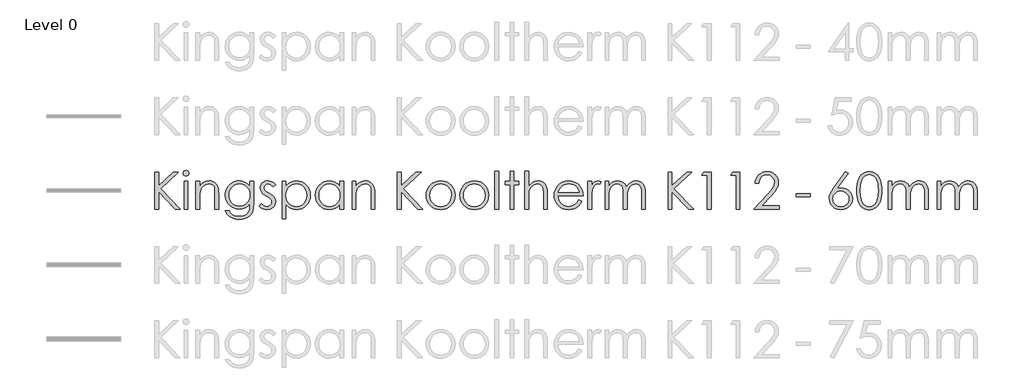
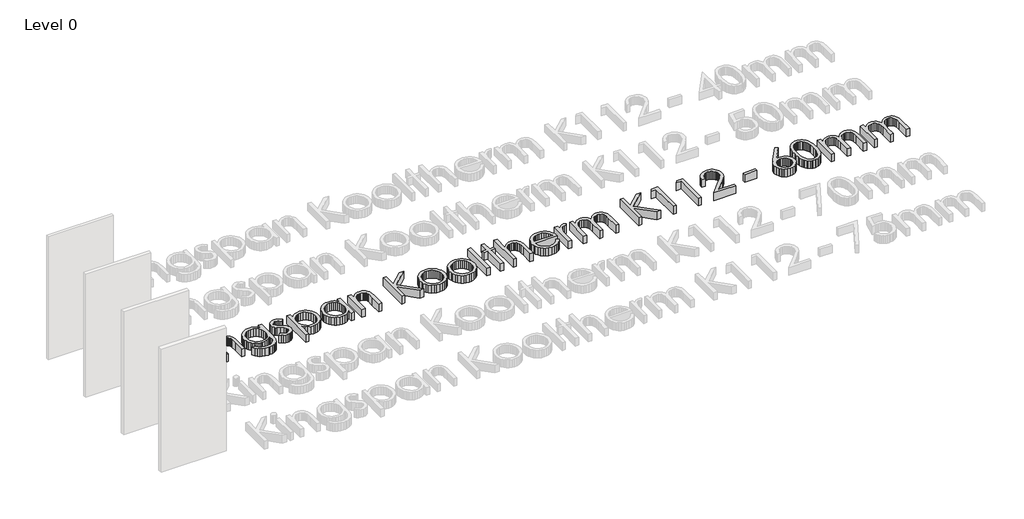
# One storey, part 11 of 14: 1 proxy.
"""IFC4 building model written with IfcOpenShell, lengths in millimetres."""

from ifc_helpers import new_model, si_unit, origin, origin_with_axes, place, context, project, spatial, polyline, outline, extrude, element, save

model = new_model("IFC4")

# Units and contexts
model_context = context("Model", 3, world=origin())
ifc_project = project(units=[si_unit("LENGTHUNIT", "METRE", prefix="MILLI")], contexts=[model_context])

# Site, building, storey
site = spatial("IfcSite", under=ifc_project)
building = spatial("IfcBuilding", under=site)
storey = spatial("IfcBuildingStorey", under=building, Name="Level 0", Elevation=0.0)

# Proxy
placement = place(None, origin())
element("IfcBuildingElementProxy", 1, Name="600mm KI_CenturyGothic", ObjectType="600mm KI_CenturyGothic", at=placement, inside=storey, context=model_context, shape_type="SweptSolid", body=[
    extrude(outline(polyline([(-3852.2663848, 2300.8965983), (-3792.944575, 2300.8965983), (-3792.944575, 2081.683973), (-3555.1938841, 2300.8965983), (-3471.6181051, 2300.8965983), (-3760.9664119, 2033.9484541), (-3441.9572002, 1707.6785001), (-3520.8984627, 1707.6785001), (-3792.944575, 1985.9039675), (-3792.944575, 1707.6785001), (-3852.2663848, 1707.6785001), (-3852.2663848, 2300.8965983)])), origin_with_axes(), (0.0, 0.0, 1.0), 150.0),
    extrude(outline(polyline([(-3348.1854852, 2330.5575033), (-3329.145347, 2327.2747208), (-3313.1176445, 2317.4263735), (-3302.226531, 2302.9821307), (-3298.5961598, 2285.911662), (-3302.226531, 2269.0729191), (-3313.1176445, 2254.7059183), (-3329.145347, 2244.857571), (-3348.1854852, 2241.5747885), (-3366.9938975, 2244.857571), (-3382.9443581, 2254.7059183), (-3393.8354717, 2269.0729191), (-3397.4658428, 2285.911662), (-3393.8354717, 2302.9821307), (-3382.9443581, 2317.4263735), (-3366.9938975, 2327.2747208), (-3348.1854852, 2330.5575033)])), origin_with_axes(), (0.0, 0.0, 1.0), 150.0),
    extrude(outline(polyline([(-3377.6919062, 2152.5920738), (-3318.3700964, 2152.5920738), (-3318.3700964, 1707.6785001), (-3377.6919062, 1707.6785001), (-3377.6919062, 2152.5920738)])), origin_with_axes(), (0.0, 0.0, 1.0), 150.0),
    extrude(outline(polyline([(-3189.8395084, 2152.5920738), (-3130.5176986, 2152.5920738), (-3130.5176986, 2073.4963274), (-3096.9946967, 2113.0055796), (-3060.0730495, 2140.696815), (-3019.7141359, 2157.0334853), (-2975.879335, 2162.4790421), (-2953.4357238, 2160.9004099), (-2932.2955704, 2156.1645135), (-2912.4588747, 2148.2713528), (-2893.9256368, 2137.2209277), (-2877.212412, 2123.4960006), (-2862.835756, 2107.5793333), (-2841.0921499, 2069.1707787), (-2833.6238199, 2044.7912914), (-2828.2892984, 2014.4448643), (-2824.0216812, 1935.8511905), (-2824.0216812, 1707.6785001), (-2883.343491, 1707.6785001), (-2883.343491, 1920.8662542), (-2883.343491, 2023.907002), (-2884.7290183, 2044.7043943), (-2889.8125035, 2062.7596977), (-2898.2849788, 2078.0729123), (-2910.1464442, 2090.644038), (-2924.7403432, 2100.4441091), (-2941.4101193, 2107.4441599), (-2980.977303, 2113.0442006), (-3005.3471351, 2110.8862539), (-3028.4038541, 2104.4124138), (-3050.1474602, 2093.6226803), (-3070.5779533, 2078.5170534), (-3088.6622225, 2060.2348518), (-3103.3671568, 2039.915394), (-3114.6927562, 2017.55868), (-3122.6390208, 1993.1647099), (-3128.5480292, 1946.0857475), (-3130.5176986, 1871.5858965), (-3130.5176986, 1707.6785001), (-3189.8395084, 1707.6785001), (-3189.8395084, 2152.5920738)])), origin_with_axes(), (0.0, 0.0, 1.0), 150.0),
    extrude(outline(polyline([(-2319.7862977, 2152.5920738), (-2260.4644879, 2152.5920738), (-2260.4644879, 1801.604699), (-2264.5196897, 1721.3503235), (-2269.588692, 1690.5500999), (-2276.6852953, 1665.9678526), (-2289.9371156, 1637.3545415), (-2307.2924139, 1612.2267729), (-2328.7511904, 1590.5845469), (-2354.3134448, 1572.4278634), (-2383.3226209, 1558.0656902), (-2415.122162, 1547.8069951), (-2449.7120682, 1541.651778), (-2487.0923395, 1539.6000389), (-2541.0458345, 1543.6166198), (-2589.206184, 1555.6663624), (-2630.260275, 1574.4940853), (-2662.8949946, 1598.8446068), (-2690.2000204, 1632.1938144), (-2715.2650299, 1678.0175952), (-2655.94322, 1678.0175952), (-2642.4355358, 1656.848476), (-2627.0933555, 1638.6048954), (-2609.9166791, 1623.2868532), (-2590.9055067, 1610.8943494), (-2569.7894914, 1601.3308318), (-2546.2982864, 1594.4997477), (-2492.1903075, 1589.0348805), (-2438.5071593, 1594.3645743), (-2415.083541, 1601.0266916), (-2393.93856, 1610.3536559), (-2359.6624492, 1634.3952097), (-2336.8567664, 1663.8823202), (-2329.3884364, 1682.5217658), (-2324.0539149, 1706.2302137), (-2319.7862977, 1768.8541165), (-2319.7862977, 1791.5632468), (-2354.757586, 1755.7809182), (-2396.6420279, 1729.3834852), (-2443.392712, 1713.1047464), (-2492.9627269, 1707.6785001), (-2522.4063889, 1709.5757553), (-2550.9521133, 1715.2675207), (-2578.5999001, 1724.7537964), (-2605.3497494, 1738.0345825), (-2630.1540674, 1754.5257366), (-2651.9652601, 1773.6431168), (-2670.7833277, 1795.3867228), (-2686.6082702, 1819.7565549), (-2699.1456025, 1846.0719183), (-2708.1008399, 1873.6521184), (-2713.4739824, 1902.4971553), (-2715.2650299, 1932.607029), (-2713.3967404, 1962.8955247), (-2707.7918722, 1992.1219437), (-2698.4504251, 2020.286286), (-2685.3723991, 2047.3885517), (-2668.9971079, 2072.5742517), (-2649.7638648, 2094.9888971), (-2627.67267, 2114.632488), (-2602.7235235, 2131.5050242), (-2575.9833294, 2145.056157), (-2548.5189922, 2154.7355376), (-2520.3305117, 2160.543166), (-2491.4178881, 2162.4790421), (-2444.5320306, 2157.5355579), (-2400.8903346, 2142.7051055), (-2359.6045177, 2116.1338782), (-2319.7862977, 2075.9680694), (-2319.7862977, 2152.5920738)]), holes=[polyline([(-2484.1571458, 2113.0442006), (-2529.0154023, 2107.0193293), (-2570.5908765, 2088.9447153), (-2606.2187212, 2060.2300242), (-2633.2340897, 2022.2849212), (-2650.2659375, 1978.0059792), (-2655.94322, 1930.2897708), (-2653.0080263, 1894.3770964), (-2644.2024452, 1861.7182387), (-2629.5264766, 1832.3131977), (-2608.9801206, 1806.1619734), (-2583.7606272, 1784.703197), (-2555.0652466, 1769.3754996), (-2522.8939786, 1760.1788811), (-2487.2468234, 1757.1133416), (-2451.3244937, 1760.154743), (-2419.1001219, 1769.2789472), (-2390.573708, 1784.4859541), (-2365.7452519, 1805.7757637), (-2345.6382095, 1832.0187128), (-2331.2760363, 1862.0851379), (-2322.6587323, 1895.975039), (-2319.7862977, 1933.6884162), (-2325.0773706, 1982.3894593), (-2340.9505892, 2025.6063246), (-2366.4983608, 2061.8327944), (-2400.8130926, 2089.5626508), (-2440.9982119, 2107.1738131), (-2484.1571458, 2113.0442006)])]), origin_with_axes(), (0.0, 0.0, 1.0), 150.0),
    extrude(outline(polyline([(-1904.5336289, 2101.3034257), (-1940.9918246, 2063.609359), (-1962.9575012, 2085.2371022), (-1984.6721416, 2100.6854902), (-2006.1357456, 2109.954523), (-2027.3483133, 2113.0442006), (-2052.181597, 2108.3710632), (-2073.2300256, 2094.3516511), (-2087.5970264, 2074.1142629), (-2092.3860267, 2050.787197), (-2088.4466878, 2029.2366958), (-2076.628671, 2008.7675817), (-2052.0657341, 1986.599145), (-2010.2006027, 1960.877579), (-1958.3326401, 1928.0111336), (-1939.8428507, 1912.1861912), (-1926.315856, 1896.7667689), (-1909.9791857, 1864.0934284), (-1904.5336289, 1827.5579908), (-1906.9474396, 1801.4115941), (-1914.1888714, 1777.3507299), (-1926.2579245, 1755.375398), (-1943.1545989, 1735.4855985), (-1963.6719892, 1718.9944443), (-1986.6031901, 1707.2150485), (-2011.9482016, 1700.147411), (-2039.7070237, 1697.7915318), (-2077.4397114, 1701.6729393), (-2113.3958344, 1713.3171617), (-2145.4512394, 1731.7972958), (-2171.4817731, 1756.1864383), (-2135.7959969, 1796.6612148), (-2114.0041146, 1775.0334717), (-2091.5749863, 1759.5850837), (-2068.5086121, 1750.3160509), (-2044.8049918, 1747.2263733), (-2013.637869, 1752.8650349), (-1987.4914724, 1769.7810198), (-1969.7644472, 1794.3439566), (-1963.8554388, 1822.9234744), (-1967.7561567, 1846.7139919), (-1979.4583106, 1867.7237995), (-2005.0253927, 1889.4287846), (-2050.2119275, 1916.2317378), (-2099.762632, 1946.8967879), (-2117.441381, 1962.0555186), (-2130.3890611, 1977.0983864), (-2146.3781427, 2009.2310334), (-2151.7078365, 2045.689229), (-2149.5305794, 2069.7356104), (-2142.9988078, 2091.6674937), (-2132.1125219, 2111.4848789), (-2116.8717217, 2129.187766), (-2098.309518, 2143.7526993), (-2077.4590218, 2154.1562231), (-2054.3202332, 2160.3983373), (-2028.8931521, 2162.4790421), (-1997.9481, 2158.6555661), (-1966.9064954, 2147.185138), (-1935.7683384, 2128.0677579), (-1904.5336289, 2101.3034257)])), origin_with_axes(), (0.0, 0.0, 1.0), 150.0),
    extrude(outline(polyline([(-1795.7769776, 2152.5920738), (-1736.4551678, 2152.5920738), (-1736.4551678, 2071.4880369), (-1700.9238754, 2111.7310876), (-1660.4490989, 2140.0788795), (-1614.9922173, 2156.8790014), (-1564.5146096, 2162.4790421), (-1520.0618732, 2158.2403906), (-1478.9305402, 2145.5244363), (-1441.1206107, 2124.331179), (-1406.6320845, 2094.6606189), (-1377.9077381, 2059.0231189), (-1357.3903478, 2019.929042), (-1345.0799137, 1977.3783884), (-1340.9764356, 1931.371158), (-1345.0412927, 1884.4708176), (-1357.235864, 1841.2491246), (-1377.5601494, 1801.706079), (-1406.014149, 1765.8416808), (-1440.2130179, 1736.0697406), (-1477.7719111, 1714.8040691), (-1518.6908288, 1702.0446661), (-1562.9697708, 1697.7915318), (-1612.6170277, 1703.256399), (-1658.0545988, 1719.6510008), (-1699.3211052, 1746.8980951), (-1736.4551678, 1784.92044), (-1736.4551678, 1549.4870072), (-1795.7769776, 1549.4870072), (-1795.7769776, 2152.5920738)]), holes=[polyline([(-1568.5311905, 2113.0442006), (-1602.5852307, 2109.7469353), (-1633.8392507, 2099.8551393), (-1662.2932503, 2083.3688128), (-1687.9472295, 2060.2879556), (-1709.1694525, 2032.3022353), (-1724.3281832, 2001.1013192), (-1733.4234216, 1966.6852074), (-1736.4551678, 1929.0538998), (-1731.048232, 1880.1983728), (-1714.8274246, 1836.5180558), (-1688.5265441, 1799.6736505), (-1652.8793888, 1771.3258586), (-1611.4390881, 1753.2512446), (-1567.7587711, 1747.2263733), (-1525.0632888, 1753.2898656), (-1485.0326535, 1771.4803424), (-1450.2544701, 1800.5812433), (-1423.3163435, 1839.3760076), (-1406.05277, 1884.0411593), (-1400.2982454, 1930.7532225), (-1405.9948385, 1977.6970114), (-1423.0846177, 2022.1304373), (-1449.8103289, 2060.4810605), (-1484.414718, 2089.1764411), (-1524.7157001, 2107.0772607), (-1568.5311905, 2113.0442006)])]), origin_with_axes(), (0.0, 0.0, 1.0), 150.0),
    extrude(outline(polyline([(-807.0801472, 2152.5920738), (-807.0801472, 1707.6785001), (-866.401957, 1707.6785001), (-866.401957, 1783.5300851), (-903.4780882, 1745.6815345), (-944.8797679, 1718.9558233), (-990.4525125, 1703.0826047), (-1040.0418379, 1697.7915318), (-1084.3159523, 1702.0446661), (-1125.2203871, 1714.8040691), (-1162.7551422, 1736.0697406), (-1196.9202178, 1765.8416808), (-1225.340424, 1801.706079), (-1245.6405713, 1841.2491246), (-1257.8206597, 1884.4708176), (-1261.8806892, 1931.371158), (-1257.7820388, 1977.3783884), (-1245.4860875, 2019.929042), (-1224.9928353, 2059.0231189), (-1196.3022822, 2094.6606189), (-1161.8475494, 2124.331179), (-1124.061758, 2145.5244363), (-1082.9449079, 2158.2403906), (-1038.4969991, 2162.4790421), (-987.7490446, 2156.8790014), (-942.0990581, 2140.0788795), (-921.2051134, 2127.3918909), (-901.6242816, 2111.7310876), (-866.401957, 2071.4880369), (-866.401957, 2152.5920738), (-807.0801472, 2152.5920738)]), holes=[polyline([(-1034.3259343, 2113.0442006), (-1078.1414247, 2107.0772607), (-1118.4424068, 2089.1764411), (-1153.0467959, 2060.4810605), (-1179.7725071, 2022.1304373), (-1196.8622863, 1977.6970114), (-1202.5588794, 1930.7532225), (-1196.8043548, 1884.0411593), (-1179.5407813, 1839.3760076), (-1152.6026548, 1800.5812433), (-1117.8244713, 1771.4803424), (-1077.6779731, 1753.2898656), (-1034.6349021, 1747.2263733), (-991.0125165, 1753.2512446), (-949.7460102, 1771.3258586), (-914.2726493, 1799.6736505), (-888.0297002, 1836.5180558), (-871.8088928, 1880.1983728), (-866.401957, 1929.0538998), (-869.4337032, 1966.6852074), (-878.5289416, 2001.1013192), (-893.6876723, 2032.3022353), (-914.9098953, 2060.2879556), (-940.5638746, 2083.3688128), (-969.0178742, 2099.8551393), (-1000.2718941, 2109.7469353), (-1034.3259343, 2113.0442006)])]), origin_with_axes(), (0.0, 0.0, 1.0), 150.0),
    extrude(outline(polyline([(-668.662591, 2152.5920738), (-609.3407811, 2152.5920738), (-609.3407811, 2073.4963274), (-575.8177792, 2113.0055796), (-538.896132, 2140.696815), (-498.5372184, 2157.0334853), (-454.7024175, 2162.4790421), (-432.2588064, 2160.9004099), (-411.1186529, 2156.1645135), (-391.2819572, 2148.2713528), (-372.7487193, 2137.2209277), (-356.0354946, 2123.4960006), (-341.6588385, 2107.5793333), (-319.9152324, 2069.1707787), (-312.4469024, 2044.7912914), (-307.1123809, 2014.4448643), (-302.8447637, 1935.8511905), (-302.8447637, 1707.6785001), (-362.1665735, 1707.6785001), (-362.1665735, 1920.8662542), (-362.1665735, 2023.907002), (-363.5521008, 2044.7043943), (-368.635586, 2062.7596977), (-377.1080613, 2078.0729123), (-388.9695267, 2090.644038), (-403.5634257, 2100.4441091), (-420.2332018, 2107.4441599), (-459.8003855, 2113.0442006), (-484.1702176, 2110.8862539), (-507.2269366, 2104.4124138), (-528.9705427, 2093.6226803), (-549.4010358, 2078.5170534), (-567.485305, 2060.2348518), (-582.1902393, 2039.915394), (-593.5158387, 2017.55868), (-601.4621033, 1993.1647099), (-607.3711117, 1946.0857475), (-609.3407811, 1871.5858965), (-609.3407811, 1707.6785001), (-668.662591, 1707.6785001), (-668.662591, 2152.5920738)])), origin_with_axes(), (0.0, 0.0, 1.0), 150.0),
    extrude(outline(polyline([(62.9730635, 2300.8965983), (122.2948734, 2300.8965983), (122.2948734, 2081.683973), (360.0455643, 2300.8965983), (443.6213432, 2300.8965983), (154.2730365, 2033.9484541), (473.2822481, 1707.6785001), (394.3409856, 1707.6785001), (122.2948734, 1985.9039675), (122.2948734, 1707.6785001), (62.9730635, 1707.6785001), (62.9730635, 2300.8965983)])), origin_with_axes(), (0.0, 0.0, 1.0), 150.0),
    extrude(outline(polyline([(760.1588128, 2162.4790421), (809.4681362, 2157.8541809), (854.3553585, 2143.9795975), (894.8204798, 2120.8552917), (930.8635, 2088.4812637), (957.7630055, 2053.2492839), (976.9769381, 2014.908316), (988.5052976, 1973.45836), (992.3480841, 1928.8994159), (988.283227, 1884.0846079), (976.0886558, 1842.1760279), (955.7643703, 1803.1736759), (927.3103707, 1767.0775519), (892.4742558, 1736.7649181), (853.0036246, 1715.1130368), (808.8984769, 1702.1219081), (760.1588128, 1697.7915318), (711.2839754, 1702.1219081), (667.0822753, 1715.1130368), (627.5537126, 1736.7649181), (592.6982872, 1767.0775519), (564.2442876, 1803.1736759), (543.9200022, 1842.1760279), (531.7254309, 1884.0846079), (527.6605738, 1928.8994159), (531.5033603, 1973.2652551), (543.0317198, 2014.5993482), (562.2456524, 2052.9016951), (589.145158, 2088.1722959), (625.2074886, 2120.6814974), (665.7305413, 2143.9023555), (710.7143161, 2157.8348705), (760.1588128, 2162.4790421)]), holes=[polyline([(760.004329, 2113.0442006), (725.7282181, 2109.6696933), (693.9624704, 2099.5461716), (664.7070856, 2082.6736353), (637.962064, 2059.0520846), (615.6584538, 2030.6415336), (599.7273037, 1999.4019965), (590.1686137, 1965.3334734), (586.9823836, 1928.4359643), (592.7948396, 1880.7004454), (610.2322075, 1836.3635719), (637.5758543, 1798.5729529), (673.1071466, 1770.4761972), (714.6439998, 1753.0388293), (760.004329, 1747.2263733), (805.3646581, 1753.0388293), (846.9015113, 1770.4761972), (882.4328037, 1798.5729529), (909.7764504, 1836.3635719), (927.2138183, 1880.7004454), (933.0262743, 1928.4359643), (929.8255614, 1965.3334734), (920.2234227, 1999.4019965), (904.2198583, 2030.6415336), (881.8148681, 2059.0520846), (854.9974321, 2082.6736353), (825.7565303, 2099.5461716), (794.0921625, 2109.6696933), (760.004329, 2113.0442006)])]), origin_with_axes(), (0.0, 0.0, 1.0), 150.0),
    extrude(outline(polyline([(1303.9420695, 2162.4790421), (1353.2513929, 2157.8541809), (1398.1386152, 2143.9795975), (1438.6037365, 2120.8552917), (1474.6467567, 2088.4812637), (1501.5462622, 2053.2492839), (1520.7601948, 2014.908316), (1532.2885543, 1973.45836), (1536.1313408, 1928.8994159), (1532.0664837, 1884.0846079), (1519.8719125, 1842.1760279), (1499.547627, 1803.1736759), (1471.0936274, 1767.0775519), (1436.2575126, 1736.7649181), (1396.7868813, 1715.1130368), (1352.6817336, 1702.1219081), (1303.9420695, 1697.7915318), (1255.0672321, 1702.1219081), (1210.865532, 1715.1130368), (1171.3369693, 1736.7649181), (1136.4815439, 1767.0775519), (1108.0275443, 1803.1736759), (1087.7032589, 1842.1760279), (1075.5086876, 1884.0846079), (1071.4438305, 1928.8994159), (1075.286617, 1973.2652551), (1086.8149766, 2014.5993482), (1106.0289091, 2052.9016951), (1132.9284147, 2088.1722959), (1168.9907453, 2120.6814974), (1209.5137981, 2143.9023555), (1254.4975728, 2157.8348705), (1303.9420695, 2162.4790421)]), holes=[polyline([(1303.7875857, 2113.0442006), (1269.5114748, 2109.6696933), (1237.7457271, 2099.5461716), (1208.4903423, 2082.6736353), (1181.7453207, 2059.0520846), (1159.4417105, 2030.6415336), (1143.5105604, 1999.4019965), (1133.9518704, 1965.3334734), (1130.7656404, 1928.4359643), (1136.5780963, 1880.7004454), (1154.0154643, 1836.3635719), (1181.359111, 1798.5729529), (1216.8904033, 1770.4761972), (1258.4272565, 1753.0388293), (1303.7875857, 1747.2263733), (1349.1479149, 1753.0388293), (1390.684768, 1770.4761972), (1426.2160604, 1798.5729529), (1453.5597071, 1836.3635719), (1470.997075, 1880.7004454), (1476.809531, 1928.4359643), (1473.6088181, 1965.3334734), (1464.0066795, 1999.4019965), (1448.003115, 2030.6415336), (1425.5981249, 2059.0520846), (1398.7806889, 2082.6736353), (1369.539787, 2099.5461716), (1337.8754193, 2109.6696933), (1303.7875857, 2113.0442006)])]), origin_with_axes(), (0.0, 0.0, 1.0), 150.0),
    extrude(outline(polyline([(1635.0010238, 2320.6705349), (1694.3228337, 2320.6705349), (1694.3228337, 1707.6785001), (1635.0010238, 1707.6785001), (1635.0010238, 2320.6705349)])), origin_with_axes(), (0.0, 0.0, 1.0), 150.0),
    extrude(outline(polyline([(1882.1752314, 2320.6705349), (1941.4970413, 2320.6705349), (1941.4970413, 2152.5920738), (2020.5927877, 2152.5920738), (2020.5927877, 2103.1572323), (1941.4970413, 2103.1572323), (1941.4970413, 1707.6785001), (1882.1752314, 1707.6785001), (1882.1752314, 2103.1572323), (1803.079485, 2103.1572323), (1803.079485, 2152.5920738), (1882.1752314, 2152.5920738), (1882.1752314, 2320.6705349)])), origin_with_axes(), (0.0, 0.0, 1.0), 150.0),
    extrude(outline(polyline([(2119.4624707, 2320.6705349), (2178.7842806, 2320.6705349), (2178.7842806, 2071.9514886), (2212.5583188, 2111.6538456), (2249.6151394, 2139.9243956), (2289.9161216, 2156.8403805), (2333.4226442, 2162.4790421), (2355.8662553, 2160.9004099), (2377.0064088, 2156.1645135), (2396.8431044, 2148.2713528), (2415.3763424, 2137.2209277), (2432.0895671, 2123.5104834), (2446.4662232, 2107.6372648), (2468.2098293, 2069.4025045), (2475.6781593, 2045.0954316), (2481.0126808, 2014.7345216), (2485.280298, 1935.8511905), (2485.280298, 1707.6785001), (2425.9584882, 1707.6785001), (2425.9584882, 1920.8662542), (2424.5681332, 1985.247411), (2420.3970685, 2023.907002), (2406.879729, 2062.7596977), (2397.1665551, 2078.0729123), (2385.4837117, 2090.644038), (2371.840854, 2100.4441091), (2356.2476374, 2107.4441599), (2319.2101273, 2113.0442006), (2296.3416854, 2110.8862539), (2274.6994594, 2104.4124138), (2254.2834492, 2093.6226803), (2235.0936547, 2078.5170534), (2218.1052556, 2060.2348518), (2204.2934312, 2039.915394), (2193.6581816, 2017.55868), (2186.1995068, 1993.1647099), (2180.6380871, 1946.3174733), (2178.7842806, 1871.5858965), (2178.7842806, 1707.6785001), (2119.4624707, 1707.6785001), (2119.4624707, 2320.6705349)])), origin_with_axes(), (0.0, 0.0, 1.0), 150.0),
    extrude(outline(polyline([(2991.0605203, 1855.9830247), (3038.950523, 1830.8021523), (3013.3255094, 1788.9177104), (2984.0315038, 1755.9547125), (2950.952643, 1730.8703926), (2913.9730643, 1712.6219843), (2872.4941426, 1701.4991449), (2825.9172528, 1697.7915318), (2774.4258447, 1702.2232881), (2728.8627554, 1715.518557), (2689.227985, 1737.6773385), (2655.5215335, 1768.6996326), (2628.6220279, 1805.3026569), (2609.4080954, 1844.2036288), (2597.8797358, 1885.4025485), (2594.0369493, 1928.8994159), (2597.3197318, 1969.7797126), (2607.1680791, 2008.381372), (2623.5819913, 2044.7043943), (2646.5614684, 2078.7487793), (2682.7493173, 2115.3807692), (2724.5758277, 2141.5464764), (2772.0409998, 2157.2459007), (2825.1448334, 2162.4790421), (2879.7935059, 2157.1107273), (2928.6490329, 2141.0057828), (2971.7114143, 2114.1642087), (3008.9806503, 2076.5860049), (3030.4539096, 2044.414737), (3045.9022976, 2008.458614), (3055.3258143, 1968.7176359), (3058.7244596, 1925.1918028), (2653.3587591, 1925.1918028), (2657.095338, 1887.9370497), (2666.6057518, 1854.1871496), (2681.8900007, 1823.9421025), (2702.9480845, 1797.2019084), (2728.3124066, 1775.3376118), (2756.5153699, 1759.7202571), (2787.5569744, 1750.3498443), (2821.4372203, 1747.2263733), (2854.9602222, 1750.238809), (2887.5563208, 1759.2761159), (2917.2944677, 1773.3148385), (2942.2436143, 1791.331521), (2965.725164, 1817.4972281), (2991.0605203, 1855.9830247)]), holes=[polyline([(2999.4026498, 1974.6266443), (2984.9777175, 2017.1483322), (2965.1844704, 2050.1692615), (2939.0766947, 2075.6977226), (2905.7081767, 2095.742006), (2867.7630738, 2108.7186519), (2827.9255433, 2113.0442006), (2795.503239, 2110.3310774), (2765.4368139, 2102.191708), (2737.726268, 2088.6260923), (2712.3716012, 2069.6342304), (2695.8321708, 2051.820308), (2681.4362043, 2030.0477362), (2669.1837016, 2004.316515), (2659.0746627, 1974.6266443), (2999.4026498, 1974.6266443)])]), origin_with_axes(), (0.0, 0.0, 1.0), 150.0),
    extrude(outline(polyline([(3137.820206, 2152.5920738), (3197.1420159, 2152.5920738), (3197.1420159, 2088.1722959), (3222.6897875, 2121.2125357), (3249.589293, 2144.3271862), (3277.7632906, 2157.9410781), (3307.1345382, 2162.4790421), (3330.4616041, 2158.694187), (3355.3335087, 2147.3396219), (3325.8270877, 2105.3200066), (3297.2475699, 2113.0442006), (3270.8308265, 2107.0965712), (3245.3409863, 2089.2536831), (3223.2884125, 2058.8976007), (3207.183468, 2015.4103886), (3199.6523789, 1957.2858288), (3197.1420159, 1859.8451217), (3197.1420159, 1707.6785001), (3137.820206, 1707.6785001), (3137.820206, 2152.5920738)])), origin_with_axes(), (0.0, 0.0, 1.0), 150.0),
    extrude(outline(polyline([(3414.6553185, 2152.5920738), (3473.9771284, 2152.5920738), (3473.9771284, 2076.4315211), (3503.5607913, 2112.9283377), (3533.9168737, 2138.0705891), (3577.3268439, 2156.3769288), (3622.8995884, 2162.4790421), (3653.7384329, 2159.331433), (3682.9165757, 2149.8886059), (3708.6767627, 2135.2126373), (3729.2617397, 2116.365604), (3746.0425511, 2090.9336953), (3760.3902414, 2056.5031006), (3775.16759, 2080.9018983), (3791.6925376, 2102.191708), (3809.965084, 2120.3725296), (3829.9852293, 2135.4443631), (3851.2798666, 2147.2720352), (3873.375889, 2155.7203723), (3896.2732965, 2160.7893747), (3919.9720892, 2162.4790421), (3962.3006723, 2156.6665861), (3981.4952943, 2149.4010161), (3999.3768034, 2139.2292182), (4015.4914031, 2126.46016), (4029.385297, 2111.4028093), (4050.5109676, 2074.4232306), (4057.8103309, 2051.0478886), (4063.0241619, 2022.4780261), (4067.1952266, 1949.7547397), (4067.1952266, 1707.6785001), (4007.8734168, 1707.6785001), (4007.8734168, 1953.3078689), (4005.4209852, 2014.4255538), (3998.0636904, 2052.8727294), (3984.7587663, 2077.3391139), (3964.4634466, 2096.5144254), (3938.3942919, 2108.9117568), (3907.7678627, 2113.0442006), (3888.1194443, 2111.4945341), (3869.3399976, 2106.8455349), (3834.3880198, 2088.2495379), (3805.6540182, 2059.3031209), (3785.8800816, 2022.0531954), (3779.1889985, 1997.8957787), (3774.4096535, 1966.8252084), (3770.5861775, 1883.9446069), (3770.5861775, 1707.6785001), (3711.2643677, 1707.6785001), (3711.2643677, 1938.0139648), (3708.850557, 2006.469634), (3701.6091252, 2048.7016647), (3688.3621325, 2074.9446137), (3667.9316394, 2095.4330383), (3641.6114484, 2108.64141), (3610.6953619, 2113.0442006), (3573.7544042, 2107.0000188), (3539.2465676, 2088.8674734), (3510.2808401, 2060.500371), (3489.9662099, 2023.7525181), (3477.9743988, 1971.9231764), (3473.9771284, 1898.3116077), (3473.9771284, 1707.6785001), (3414.6553185, 1707.6785001), (3414.6553185, 2152.5920738)])), origin_with_axes(), (0.0, 0.0, 1.0), 150.0),
    extrude(outline(polyline([(4433.0130538, 2300.8965983), (4492.3348637, 2300.8965983), (4492.3348637, 2081.683973), (4730.0855546, 2300.8965983), (4813.6613335, 2300.8965983), (4524.3130268, 2033.9484541), (4843.3222385, 1707.6785001), (4764.3809759, 1707.6785001), (4492.3348637, 1985.9039675), (4492.3348637, 1707.6785001), (4433.0130538, 1707.6785001), (4433.0130538, 2300.8965983)])), origin_with_axes(), (0.0, 0.0, 1.0), 150.0),
    extrude(outline(polyline([(5010.6282802, 2300.8965983), (5125.1008351, 2300.8965983), (5125.1008351, 1707.6785001), (5065.7790253, 1707.6785001), (5065.7790253, 2251.4617568), (4976.7963106, 2251.4617568), (5010.6282802, 2300.8965983)])), origin_with_axes(), (0.0, 0.0, 1.0), 150.0),
    extrude(outline(polyline([(5475.3157905, 2300.8965983), (5589.7883454, 2300.8965983), (5589.7883454, 1707.6785001), (5530.4665356, 1707.6785001), (5530.4665356, 2251.4617568), (5441.4838208, 2251.4617568), (5475.3157905, 2300.8965983)])), origin_with_axes(), (0.0, 0.0, 1.0), 150.0),
    extrude(outline(polyline([(5896.2843628, 2122.9311689), (5836.962553, 2122.9311689), (5841.4474131, 2162.1893848), (5852.5847353, 2197.7786086), (5870.3745196, 2229.6988403), (5894.816766, 2257.9500798), (5924.2121517, 2281.0647303), (5956.8613542, 2297.5751949), (5992.7643733, 2307.4814737), (6031.9212092, 2310.7835666), (6070.3925229, 2307.4863013), (6105.0113948, 2297.5945054), (6135.777825, 2281.1081789), (6162.6918135, 2258.0273217), (6184.5561101, 2230.466432), (6200.1734648, 2200.540008), (6209.5438776, 2168.2480495), (6212.6673485, 2133.5905566), (6206.5845458, 2084.7929611), (6188.3361375, 2039.1236641), (6152.5538088, 1987.236391), (6093.869245, 1919.784867), (5941.084688, 1757.1133416), (6222.5543169, 1757.1133416), (6222.5543169, 1707.6785001), (5817.1886164, 1707.6785001), (6043.1985325, 1948.3643848), (6099.9327373, 2013.8848603), (6132.6446988, 2059.9789879), (6148.1703288, 2097.3447763), (6153.3455387, 2136.6802342), (6151.0958672, 2161.2866196), (6144.3468527, 2184.1260957), (6133.0984952, 2205.1986625), (6117.3507947, 2224.5043198), (6098.3396223, 2240.6237471), (6077.3008489, 2252.1376238), (6054.2344746, 2259.0459498), (6029.1404994, 2261.3487251), (6002.8058255, 2259.0749155), (5978.7980651, 2252.2534867), (5957.1172181, 2240.8844387), (5937.7632845, 2224.9677714), (5921.5279943, 2204.9476262), (5909.2030773, 2181.268144), (5900.7885334, 2153.9293249), (5896.2843628, 2122.9311689)])), origin_with_axes(), (0.0, 0.0, 1.0), 150.0),
    extrude(outline(polyline([(6499.3894294, 1954.8527077), (6726.7897004, 1954.8527077), (6726.7897004, 1905.4178662), (6499.3894294, 1905.4178662), (6499.3894294, 1954.8527077)])), origin_with_axes(), (0.0, 0.0, 1.0), 150.0),
    extrude(outline(polyline([(7290.3468937, 2310.7835666), (7342.7169289, 2285.1392426), (7166.605306, 2039.0464222), (7229.1712773, 2043.8354224), (7265.2915394, 2040.7650553), (7298.5731603, 2031.553954), (7329.0161398, 2016.2021184), (7356.6204781, 1994.7095487), (7379.5323685, 1968.7272912), (7395.8980045, 1939.9063923), (7405.7173861, 1908.2468522), (7408.9905133, 1873.7486708), (7407.4601574, 1849.6974618), (7402.8690896, 1826.8241924), (7395.2173099, 1805.1288625), (7384.5048184, 1784.6114722), (7370.9826513, 1765.7065074), (7354.9018449, 1748.8484541), (7315.0643144, 1721.2730815), (7268.3715618, 1703.6619192), (7218.2029218, 1697.7915318), (7169.830157, 1703.6426087), (7125.1263843, 1721.1958396), (7104.8407198, 1734.0807607), (7086.8530031, 1749.3312162), (7071.163234, 1766.9472061), (7057.7714127, 1786.9287304), (7039.4071415, 1830.7635313), (7033.2857178, 1877.6107678), (7037.1091938, 1914.5517256), (7048.5796219, 1953.3851108), (7069.8983973, 1997.2006012), (7103.2669153, 2049.0878744), (7290.3468937, 2310.7835666)]), holes=[polyline([(7216.5035992, 1994.4005809), (7190.2268567, 1992.1412542), (7166.5473745, 1985.363274), (7145.4651526, 1974.0666402), (7126.9801908, 1958.2513531), (7111.9421507, 1939.2208701), (7101.2006934, 1918.2786492), (7094.755819, 1895.4246902), (7092.6075276, 1870.6589932), (7094.9585791, 1846.0284697), (7102.0117338, 1823.2710631), (7113.7669915, 1802.3867736), (7130.2243523, 1783.3756012), (7150.0127718, 1767.560314), (7171.7612055, 1756.2636803), (7195.4696534, 1749.4857001), (7221.1381155, 1747.2263733), (7246.8065777, 1749.4857001), (7270.5150256, 1756.2636803), (7292.2634593, 1767.560314), (7312.0518788, 1783.3756012), (7328.5092396, 1802.3867736), (7340.2644973, 1823.2710631), (7347.317652, 1846.0284697), (7349.6687035, 1870.6589932), (7347.2307548, 1895.4246902), (7339.9169086, 1918.2786492), (7327.727165, 1939.2208701), (7310.6615239, 1958.2513531), (7290.1489612, 1974.0666402), (7267.6184529, 1985.363274), (7243.0699988, 1992.1412542), (7216.5035992, 1994.4005809)])]), origin_with_axes(), (0.0, 0.0, 1.0), 150.0),
    extrude(outline(polyline([(7478.1992914, 2004.1330653), (7479.7779236, 2058.5644948), (7484.51382, 2106.4593252), (7492.4069808, 2147.8175564), (7503.4574058, 2182.6391884), (7517.3850931, 2212.2807828), (7533.9100406, 2238.0989012), (7553.0322483, 2260.0935436), (7574.7517163, 2278.26471), (7598.4456813, 2292.4917098), (7623.4913804, 2302.6538525), (7649.8888133, 2308.7511381), (7677.6379802, 2310.7835666), (7705.8409435, 2308.7366552), (7732.6728624, 2302.595921), (7758.1337368, 2292.361364), (7782.2235668, 2278.0329841), (7804.4064864, 2259.6156091), (7824.1466297, 2237.1140665), (7841.4439966, 2210.5283563), (7856.2985871, 2179.8584786), (7868.2276392, 2144.3416691), (7876.7483907, 2103.2151637), (7881.8608416, 2056.4789625), (7883.5649919, 2004.1330653), (7881.8849797, 1951.9464797), (7876.8449431, 1905.3792452), (7868.4448822, 1864.4313618), (7856.6847968, 1829.1028296), (7841.9750349, 1798.5777805), (7824.7259442, 1772.0403465), (7804.9375247, 1749.4905277), (7782.6097765, 1730.928324), (7758.3509797, 1716.4309774), (7732.7694148, 1706.0757299), (7705.8650816, 1699.8625813), (7677.6379802, 1697.7915318), (7649.9129514, 1699.7998222), (7623.5879328, 1705.8246936), (7598.6629243, 1715.8661457), (7575.137926, 1729.9241788), (7553.5632867, 1747.9601718), (7534.4893551, 1769.9355036), (7517.9161314, 1795.8501745), (7503.8436155, 1825.7041842), (7492.6242237, 1860.7237487), (7484.6103725, 1902.1350837), (7479.8020617, 1949.9381893), (7478.1992914, 2004.1330653)]), holes=[polyline([(7537.5211013, 2004.2875492), (7541.9045814, 1915.961391), (7547.3839315, 1880.9804475), (7555.0550216, 1852.1209277), (7564.8695756, 1827.8814414), (7576.7793172, 1806.7605985), (7590.7842464, 1788.7583989), (7606.8843633, 1773.8748426), (7642.1839298, 1753.8884906), (7660.586822, 1748.8919027), (7679.4917868, 1747.2263733), (7698.4836487, 1748.8581093), (7716.8382647, 1753.7533172), (7751.6357586, 1773.334149), (7767.3931143, 1788.0101176), (7781.1421796, 1805.9302476), (7792.8829545, 1827.0945392), (7802.6154389, 1851.5029922), (7812.0775766, 1884.8618549), (7818.8362463, 1921.4455687), (7824.2431821, 2004.2875492), (7819.4155608, 2085.8936587), (7813.3810343, 2120.5849449), (7804.9326971, 2151.2017189), (7794.3505514, 2177.864671), (7781.914599, 2200.6944918), (7767.6248402, 2219.6911814), (7751.4812747, 2234.8547397), (7716.413434, 2254.7252288), (7698.1843362, 2259.692851), (7679.4917868, 2261.3487251), (7660.4757867, 2259.692851), (7642.0487564, 2254.7252288), (7606.9616052, 2234.8547397), (7591.0159723, 2220.0435978), (7577.088285, 2202.1041572), (7565.1785434, 2181.0364181), (7555.2867474, 2156.8403805), (7547.5142772, 2127.9856883), (7541.9625128, 2092.9419857), (7537.5211013, 2004.2875492)])]), origin_with_axes(), (0.0, 0.0, 1.0), 150.0),
    extrude(outline(polyline([(7982.4346749, 2152.5920738), (8041.7564848, 2152.5920738), (8041.7564848, 2076.4315211), (8071.3401477, 2112.9283377), (8101.6962301, 2138.0705891), (8145.1062003, 2156.3769288), (8190.6789448, 2162.4790421), (8221.5177893, 2159.331433), (8250.6959321, 2149.8886059), (8276.4561191, 2135.2126373), (8297.0410961, 2116.365604), (8313.8219075, 2090.9336953), (8328.1695978, 2056.5031006), (8342.9469464, 2080.9018983), (8359.471894, 2102.191708), (8377.7444404, 2120.3725296), (8397.7645856, 2135.4443631), (8419.0592229, 2147.2720352), (8441.1552454, 2155.7203723), (8464.0526529, 2160.7893747), (8487.7514456, 2162.4790421), (8530.0800287, 2156.6665861), (8549.2746507, 2149.4010161), (8567.1561598, 2139.2292182), (8583.2707595, 2126.46016), (8597.1646534, 2111.4028093), (8618.290324, 2074.4232306), (8625.5896873, 2051.0478886), (8630.8035182, 2022.4780261), (8634.974583, 1949.7547397), (8634.974583, 1707.6785001), (8575.6527732, 1707.6785001), (8575.6527732, 1953.3078689), (8573.2003416, 2014.4255538), (8565.8430468, 2052.8727294), (8552.5381227, 2077.3391139), (8532.242803, 2096.5144254), (8506.1736483, 2108.9117568), (8475.5472191, 2113.0442006), (8455.8988006, 2111.4945341), (8437.119354, 2106.8455349), (8402.1673762, 2088.2495379), (8373.4333746, 2059.3031209), (8353.659438, 2022.0531954), (8346.9683549, 1997.8957787), (8342.1890099, 1966.8252084), (8338.3655339, 1883.9446069), (8338.3655339, 1707.6785001), (8279.0437241, 1707.6785001), (8279.0437241, 1938.0139648), (8276.6299134, 2006.469634), (8269.3884816, 2048.7016647), (8256.1414889, 2074.9446137), (8235.7109958, 2095.4330383), (8209.3908048, 2108.64141), (8178.4747183, 2113.0442006), (8141.5337606, 2107.0000188), (8107.025924, 2088.8674734), (8078.0601965, 2060.500371), (8057.7455663, 2023.7525181), (8045.7537552, 1971.9231764), (8041.7564848, 1898.3116077), (8041.7564848, 1707.6785001), (7982.4346749, 1707.6785001), (7982.4346749, 2152.5920738)])), origin_with_axes(), (0.0, 0.0, 1.0), 150.0),
    extrude(outline(polyline([(8773.3921393, 2152.5920738), (8832.7139491, 2152.5920738), (8832.7139491, 2076.4315211), (8862.2976121, 2112.9283377), (8892.6536944, 2138.0705891), (8936.0636646, 2156.3769288), (8981.6364092, 2162.4790421), (9012.4752537, 2159.331433), (9041.6533964, 2149.8886059), (9067.4135834, 2135.2126373), (9087.9985604, 2116.365604), (9104.7793718, 2090.9336953), (9119.1270621, 2056.5031006), (9133.9044108, 2080.9018983), (9150.4293583, 2102.191708), (9168.7019047, 2120.3725296), (9188.72205, 2135.4443631), (9210.0166873, 2147.2720352), (9232.1127097, 2155.7203723), (9255.0101172, 2160.7893747), (9278.7089099, 2162.4790421), (9321.037493, 2156.6665861), (9340.232115, 2149.4010161), (9358.1136241, 2139.2292182), (9374.2282238, 2126.46016), (9388.1221177, 2111.4028093), (9409.2477883, 2074.4232306), (9416.5471516, 2051.0478886), (9421.7609826, 2022.4780261), (9425.9320473, 1949.7547397), (9425.9320473, 1707.6785001), (9366.6102375, 1707.6785001), (9366.6102375, 1953.3078689), (9364.1578059, 2014.4255538), (9356.8005111, 2052.8727294), (9343.495587, 2077.3391139), (9323.2002673, 2096.5144254), (9297.1311126, 2108.9117568), (9266.5046834, 2113.0442006), (9246.856265, 2111.4945341), (9228.0768183, 2106.8455349), (9193.1248405, 2088.2495379), (9164.3908389, 2059.3031209), (9144.6169023, 2022.0531954), (9137.9258192, 1997.8957787), (9133.1464742, 1966.8252084), (9129.3229982, 1883.9446069), (9129.3229982, 1707.6785001), (9070.0011884, 1707.6785001), (9070.0011884, 1938.0139648), (9067.5873778, 2006.469634), (9060.3459459, 2048.7016647), (9047.0989532, 2074.9446137), (9026.6684601, 2095.4330383), (9000.3482691, 2108.64141), (8969.4321827, 2113.0442006), (8932.4912249, 2107.0000188), (8897.9833883, 2088.8674734), (8869.0176608, 2060.500371), (8848.7030306, 2023.7525181), (8836.7112195, 1971.9231764), (8832.7139491, 1898.3116077), (8832.7139491, 1707.6785001), (8773.3921393, 1707.6785001), (8773.3921393, 2152.5920738)])), origin_with_axes(), (0.0, 0.0, 1.0), 150.0),
])

save(model, "model.ifc")
